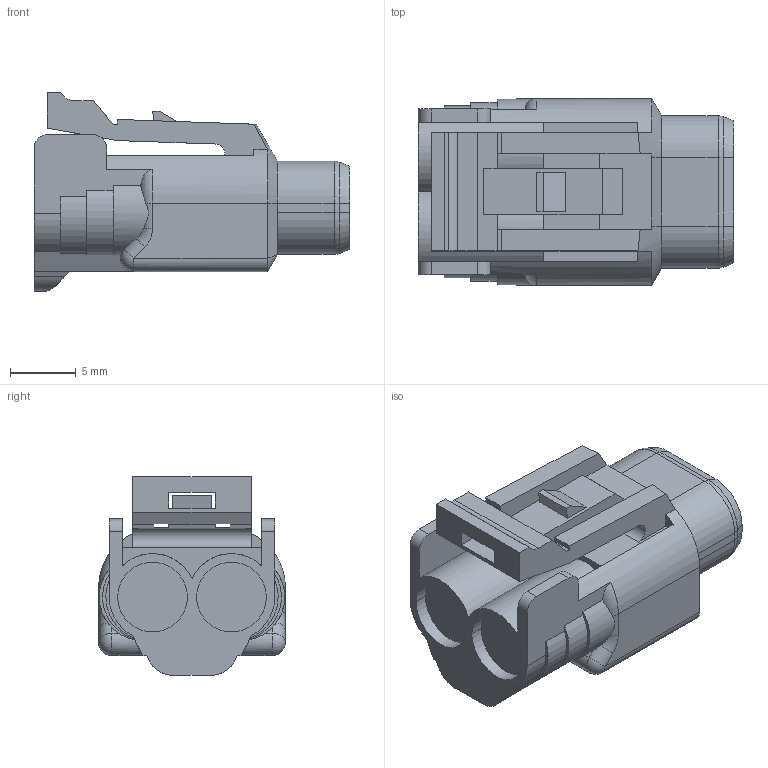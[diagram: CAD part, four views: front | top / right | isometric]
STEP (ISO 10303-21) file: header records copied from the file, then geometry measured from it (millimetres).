
FILE_DESCRIPTION(('CATIA V5 STEP Exchange'),'2;1');
FILE_NAME('N:\C-DAM_MyDesk\ENV\900093\6189-0388.stp','2013-07-25T00:31:58+00:00',('none'),('none'),'CATIA Version 5 Release 20 SP 4 (IN-10)','CATIA V5 STEP AP203','none');
FILE_SCHEMA(('CONFIG_CONTROL_DESIGN'));
Length unit declared in the file: millimetre
Products named in the file (1): 6189-0388
Bounding box: 24 x 14.2 x 15.1 mm (x, y, z)
Volume: 2397.4 mm3; surface area: 1939.2 mm2
Topology: 1 solids, 1 shells, 159 faces, 430 edges, 272 vertices
Faces by surface type: plane 100, cylinder 40, torus 8, cone 6, bspline 3, sphere 2
Entity records: 5182 total; most frequent: CARTESIAN_POINT 1339, ORIENTED_EDGE 856, DIRECTION 658, EDGE_CURVE 428, VECTOR 306, LINE 306, VERTEX_POINT 272, AXIS2_PLACEMENT_3D 221
